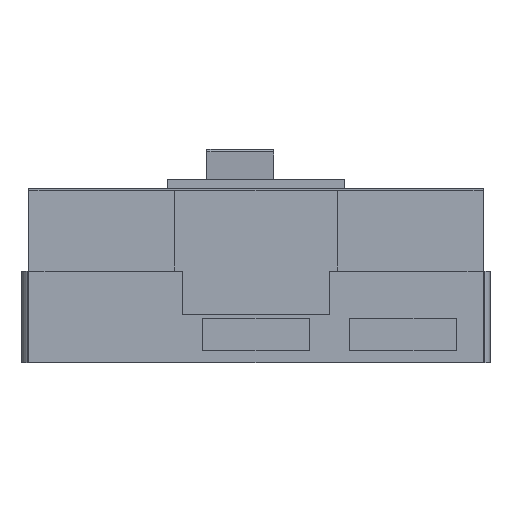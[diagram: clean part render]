
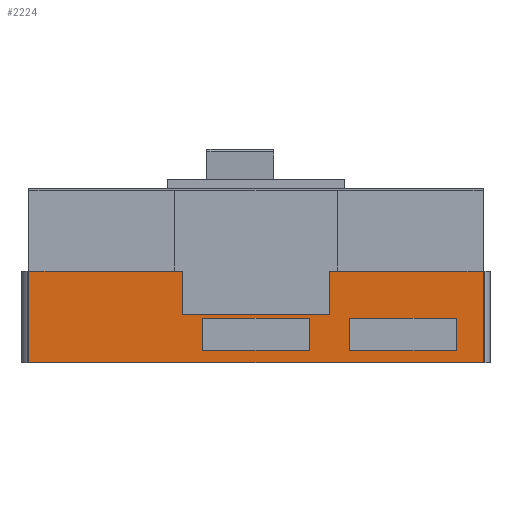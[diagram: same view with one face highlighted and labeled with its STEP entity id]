
A CAD part, front view. The second image highlights one B-rep face of the part: STEP entity #2224.
In plain terms, the highlighted planar face has unit normal (0, -1, 0).
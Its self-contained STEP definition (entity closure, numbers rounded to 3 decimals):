
#11 = ORIENTED_EDGE ( 'NONE', *, *, #1333, .T. ) ;
#76 = VERTEX_POINT ( 'NONE', #3941 ) ;
#141 = ORIENTED_EDGE ( 'NONE', *, *, #1617, .T. ) ;
#194 = VECTOR ( 'NONE', #1324, 1000. ) ;
#306 = LINE ( 'NONE', #4386, #194 ) ;
#337 = CARTESIAN_POINT ( 'NONE',  ( 143.7, 0., 45. ) ) ;
#338 = VECTOR ( 'NONE', #1674, 1000. ) ;
#346 = CARTESIAN_POINT ( 'NONE',  ( 0., 0., 0. ) ) ;
#370 = ORIENTED_EDGE ( 'NONE', *, *, #835, .T. ) ;
#371 = CARTESIAN_POINT ( 'NONE',  ( 262.5, 0., 32. ) ) ;
#450 = LINE ( 'NONE', #2004, #3950 ) ;
#460 = EDGE_CURVE ( 'NONE', #76, #3165, #3761, .T. ) ;
#465 = VERTEX_POINT ( 'NONE', #2398 ) ;
#494 = DIRECTION ( 'NONE',  ( 0., 0., 1. ) ) ;
#509 = CARTESIAN_POINT ( 'NONE',  ( 162.5, 0., 12. ) ) ;
#518 = ORIENTED_EDGE ( 'NONE', *, *, #2142, .F. ) ;
#573 = LINE ( 'NONE', #3164, #3207 ) ;
#583 = EDGE_LOOP ( 'NONE', ( #2588, #2500, #1118, #2982, #11, #3137, #141, #2746 ) ) ;
#591 = EDGE_CURVE ( 'NONE', #1090, #1204, #1422, .T. ) ;
#637 = CARTESIAN_POINT ( 'NONE',  ( 400., 0., 32. ) ) ;
#640 = DIRECTION ( 'NONE',  ( 1., 0., 0. ) ) ;
#693 = CARTESIAN_POINT ( 'NONE',  ( 300., 0., 12. ) ) ;
#769 = CARTESIAN_POINT ( 'NONE',  ( 262.5, 0., 12. ) ) ;
#773 = FACE_OUTER_BOUND ( 'NONE', #583, .T. ) ;
#780 = VECTOR ( 'NONE', #3991, 1000. ) ;
#816 = LINE ( 'NONE', #4303, #4305 ) ;
#835 = EDGE_CURVE ( 'NONE', #2036, #1340, #2870, .T. ) ;
#910 = VECTOR ( 'NONE', #2514, 1000. ) ;
#955 = LINE ( 'NONE', #1554, #2659 ) ;
#1028 = EDGE_CURVE ( 'NONE', #1913, #3322, #3709, .T. ) ;
#1051 = VECTOR ( 'NONE', #3738, 1000. ) ;
#1090 = VERTEX_POINT ( 'NONE', #1282 ) ;
#1115 = DIRECTION ( 'NONE',  ( 1., 0., 0. ) ) ;
#1118 = ORIENTED_EDGE ( 'NONE', *, *, #2394, .T. ) ;
#1121 = DIRECTION ( 'NONE',  ( 1., 0., 0. ) ) ;
#1124 = VERTEX_POINT ( 'NONE', #637 ) ;
#1149 = EDGE_LOOP ( 'NONE', ( #518, #1571, #370, #3407 ) ) ;
#1177 = CARTESIAN_POINT ( 'NONE',  ( 281.3, 0., 86. ) ) ;
#1181 = PLANE ( 'NONE',  #1477 ) ;
#1204 = VERTEX_POINT ( 'NONE', #346 ) ;
#1214 = DIRECTION ( 'NONE',  ( 0., 0., 1. ) ) ;
#1232 = VERTEX_POINT ( 'NONE', #2069 ) ;
#1282 = CARTESIAN_POINT ( 'NONE',  ( 0., 0., 86. ) ) ;
#1324 = DIRECTION ( 'NONE',  ( 0., 0., 1. ) ) ;
#1333 = EDGE_CURVE ( 'NONE', #1204, #3322, #1423, .T. ) ;
#1340 = VERTEX_POINT ( 'NONE', #3172 ) ;
#1366 = EDGE_CURVE ( 'NONE', #2036, #1232, #4014, .T. ) ;
#1422 = LINE ( 'NONE', #1580, #2112 ) ;
#1423 = LINE ( 'NONE', #2139, #2313 ) ;
#1477 = AXIS2_PLACEMENT_3D ( 'NONE', #3888, #2544, #494 ) ;
#1545 = ORIENTED_EDGE ( 'NONE', *, *, #2892, .F. ) ;
#1554 = CARTESIAN_POINT ( 'NONE',  ( 162.5, 0., 12. ) ) ;
#1571 = ORIENTED_EDGE ( 'NONE', *, *, #1366, .F. ) ;
#1580 = CARTESIAN_POINT ( 'NONE',  ( 0., 0., 315. ) ) ;
#1606 = EDGE_CURVE ( 'NONE', #1340, #1124, #2741, .T. ) ;
#1617 = EDGE_CURVE ( 'NONE', #1913, #4157, #816, .T. ) ;
#1667 = LINE ( 'NONE', #769, #3495 ) ;
#1674 = DIRECTION ( 'NONE',  ( -1., 0., 0. ) ) ;
#1801 = VECTOR ( 'NONE', #3311, 1000. ) ;
#1913 = VERTEX_POINT ( 'NONE', #2118 ) ;
#1928 = DIRECTION ( 'NONE',  ( 0., 0., -1. ) ) ;
#1942 = CARTESIAN_POINT ( 'NONE',  ( 425., 0., 315. ) ) ;
#2004 = CARTESIAN_POINT ( 'NONE',  ( 143.7, 0., 45. ) ) ;
#2028 = CARTESIAN_POINT ( 'NONE',  ( 425., 0., 0. ) ) ;
#2032 = ORIENTED_EDGE ( 'NONE', *, *, #3703, .T. ) ;
#2036 = VERTEX_POINT ( 'NONE', #2714 ) ;
#2058 = DIRECTION ( 'NONE',  ( 0., 0., 1. ) ) ;
#2069 = CARTESIAN_POINT ( 'NONE',  ( 400., 0., 12. ) ) ;
#2112 = VECTOR ( 'NONE', #1928, 1000. ) ;
#2118 = CARTESIAN_POINT ( 'NONE',  ( 425., 0., 86. ) ) ;
#2139 = CARTESIAN_POINT ( 'NONE',  ( 0., 0., 0. ) ) ;
#2142 = EDGE_CURVE ( 'NONE', #1232, #1124, #573, .T. ) ;
#2224 = ADVANCED_FACE ( 'NONE', ( #773, #2476, #4262 ), #1181, .F. ) ;
#2264 = DIRECTION ( 'NONE',  ( -1., 0., 0. ) ) ;
#2313 = VECTOR ( 'NONE', #1121, 1000. ) ;
#2394 = EDGE_CURVE ( 'NONE', #3165, #1090, #3642, .T. ) ;
#2398 = CARTESIAN_POINT ( 'NONE',  ( 281.3, 0., 45. ) ) ;
#2476 = FACE_BOUND ( 'NONE', #3129, .T. ) ;
#2483 = DIRECTION ( 'NONE',  ( 0., 0., 1. ) ) ;
#2497 = LINE ( 'NONE', #2744, #4185 ) ;
#2500 = ORIENTED_EDGE ( 'NONE', *, *, #460, .T. ) ;
#2514 = DIRECTION ( 'NONE',  ( 1., 0., 0. ) ) ;
#2544 = DIRECTION ( 'NONE',  ( 0., 1., 0. ) ) ;
#2588 = ORIENTED_EDGE ( 'NONE', *, *, #3762, .F. ) ;
#2613 = CARTESIAN_POINT ( 'NONE',  ( 400., 0., 32. ) ) ;
#2618 = VECTOR ( 'NONE', #3963, 1000. ) ;
#2638 = EDGE_CURVE ( 'NONE', #3573, #3989, #1667, .T. ) ;
#2649 = CARTESIAN_POINT ( 'NONE',  ( 262.5, 0., 32. ) ) ;
#2659 = VECTOR ( 'NONE', #1214, 1000. ) ;
#2714 = CARTESIAN_POINT ( 'NONE',  ( 300., 0., 12. ) ) ;
#2741 = LINE ( 'NONE', #2613, #2618 ) ;
#2744 = CARTESIAN_POINT ( 'NONE',  ( 281.3, 0., 45. ) ) ;
#2746 = ORIENTED_EDGE ( 'NONE', *, *, #2978, .F. ) ;
#2777 = VECTOR ( 'NONE', #2058, 1000. ) ;
#2870 = LINE ( 'NONE', #693, #2777 ) ;
#2892 = EDGE_CURVE ( 'NONE', #3989, #3411, #306, .T. ) ;
#2978 = EDGE_CURVE ( 'NONE', #465, #4157, #2497, .T. ) ;
#2982 = ORIENTED_EDGE ( 'NONE', *, *, #591, .T. ) ;
#3129 = EDGE_LOOP ( 'NONE', ( #1545, #3554, #3158, #2032 ) ) ;
#3137 = ORIENTED_EDGE ( 'NONE', *, *, #1028, .F. ) ;
#3151 = EDGE_CURVE ( 'NONE', #3573, #4353, #955, .T. ) ;
#3158 = ORIENTED_EDGE ( 'NONE', *, *, #3151, .T. ) ;
#3164 = CARTESIAN_POINT ( 'NONE',  ( 400., 0., 12. ) ) ;
#3165 = VERTEX_POINT ( 'NONE', #3925 ) ;
#3172 = CARTESIAN_POINT ( 'NONE',  ( 300., 0., 32. ) ) ;
#3207 = VECTOR ( 'NONE', #2483, 1000. ) ;
#3311 = DIRECTION ( 'NONE',  ( 0., 0., -1. ) ) ;
#3322 = VERTEX_POINT ( 'NONE', #2028 ) ;
#3392 = LINE ( 'NONE', #2649, #780 ) ;
#3407 = ORIENTED_EDGE ( 'NONE', *, *, #1606, .T. ) ;
#3411 = VERTEX_POINT ( 'NONE', #371 ) ;
#3495 = VECTOR ( 'NONE', #1115, 1000. ) ;
#3513 = CARTESIAN_POINT ( 'NONE',  ( 262.5, 0., 12. ) ) ;
#3554 = ORIENTED_EDGE ( 'NONE', *, *, #2638, .F. ) ;
#3573 = VERTEX_POINT ( 'NONE', #509 ) ;
#3642 = LINE ( 'NONE', #4374, #338 ) ;
#3703 = EDGE_CURVE ( 'NONE', #4353, #3411, #3392, .T. ) ;
#3709 = LINE ( 'NONE', #1942, #1801 ) ;
#3738 = DIRECTION ( 'NONE',  ( 0., 0., 1. ) ) ;
#3752 = DIRECTION ( 'NONE',  ( 0., 0., 1. ) ) ;
#3761 = LINE ( 'NONE', #337, #1051 ) ;
#3762 = EDGE_CURVE ( 'NONE', #76, #465, #450, .T. ) ;
#3851 = CARTESIAN_POINT ( 'NONE',  ( 400., 0., 12. ) ) ;
#3888 = CARTESIAN_POINT ( 'NONE',  ( 0., 0., 315. ) ) ;
#3925 = CARTESIAN_POINT ( 'NONE',  ( 143.7, 0., 86. ) ) ;
#3941 = CARTESIAN_POINT ( 'NONE',  ( 143.7, 0., 45. ) ) ;
#3950 = VECTOR ( 'NONE', #640, 1000. ) ;
#3963 = DIRECTION ( 'NONE',  ( 1., 0., 0. ) ) ;
#3989 = VERTEX_POINT ( 'NONE', #3513 ) ;
#3991 = DIRECTION ( 'NONE',  ( 1., 0., 0. ) ) ;
#4014 = LINE ( 'NONE', #3851, #910 ) ;
#4157 = VERTEX_POINT ( 'NONE', #1177 ) ;
#4185 = VECTOR ( 'NONE', #3752, 1000. ) ;
#4262 = FACE_BOUND ( 'NONE', #1149, .T. ) ;
#4303 = CARTESIAN_POINT ( 'NONE',  ( 425., 0., 86. ) ) ;
#4305 = VECTOR ( 'NONE', #2264, 1000. ) ;
#4353 = VERTEX_POINT ( 'NONE', #4357 ) ;
#4357 = CARTESIAN_POINT ( 'NONE',  ( 162.5, 0., 32. ) ) ;
#4374 = CARTESIAN_POINT ( 'NONE',  ( 425., 0., 86. ) ) ;
#4386 = CARTESIAN_POINT ( 'NONE',  ( 262.5, 0., 12. ) ) ;
